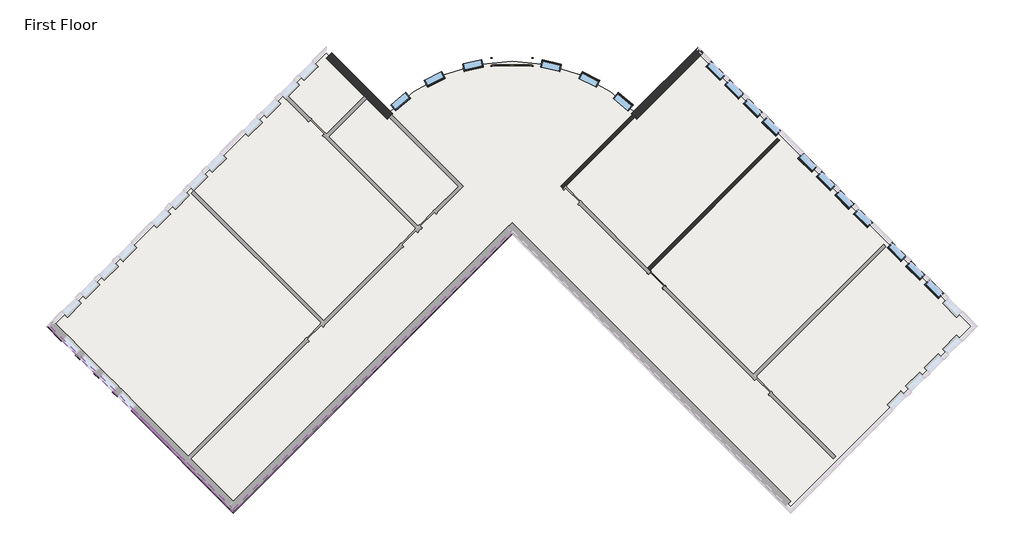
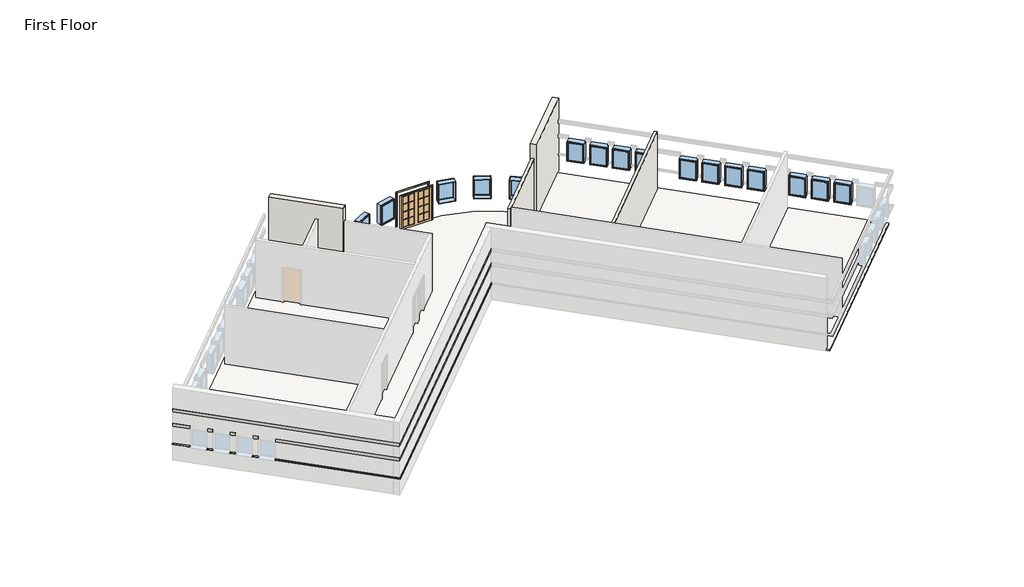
# One storey, part 2 of 3: 17 windows, 6 proxies, 4 walls, 2 doors, 1 slab.
"""IFC4 building model written with IfcOpenShell, lengths in millimetres."""

from ifc_helpers import new_model, si_unit, point, frame, frame_2d, origin, origin_with_axes, place, context, project, spatial, polyline, circle_curve, trimmed, segment, composite_curve, outline, extrude, faceted_brep, transform, mapped, element, save
from ifc_brep_helpers import plane_surface, cylinder_surface, revolved_surface, advanced_brep
from components import door_0a477ef8, door_5f5b55da, window_15c49d37, window_0e2fc6ce

model = new_model("IFC4")

# Units and contexts
model_context = context("Model", 3, world=origin())
ifc_project = project(units=[si_unit("LENGTHUNIT", "METRE", prefix="MILLI")], contexts=[model_context])

# Site, building, storey
site = spatial("IfcSite", under=ifc_project)
building = spatial("IfcBuilding", under=site)
storey = spatial("IfcBuildingStorey", under=building, Name="First Floor", Elevation=0.0)

# Proxies
placement = place(None, origin())
element("IfcBuildingElementProxy", 1, Name="Wall Sweeps", at=placement, inside=storey, context=model_context, shape_type="Brep", body=[
    faceted_brep([(-2868.0283643, 3082.7471418, 1085.85), (-2868.0283643, 2952.533428, 1085.85), (-2868.0283643, 2903.1420194, 1041.4), (-2868.0283643, 2903.1420194, 1016.0), (-2868.0283643, 3082.7471418, 1016.0), (-15799.5971786, -9848.8216726, 1085.85), (-15799.5971786, -9848.8216726, 1016.0), (-15799.5971786, -10028.426795, 1016.0), (-15799.5971786, -10028.426795, 1041.4), (-15799.5971786, -9979.0353863, 1085.85), (-2933.1352212, 3017.6402849, 1085.85), (-2933.1352212, 3017.6402849, 1016.0)], [[[0, 1, 2, 3, 4]], [[5, 6, 7, 8, 9]], [[1, 0, 10, 5, 9]], [[2, 1, 9, 8]], [[3, 2, 8, 7]], [[4, 3, 7, 6, 11]], [[0, 4, 11, 6, 5, 10]]]),
])
element("IfcBuildingElementProxy", 2, Name="Wall Sweeps", at=placement, inside=storey, context=model_context, shape_type="Brep", body=[
    faceted_brep([(-2868.0283643, 2952.533428, 2336.8), (-2868.0283643, 2952.533428, 2133.6), (-2868.0283643, 3082.7471418, 2133.6), (-2868.0283643, 3082.7471418, 2336.8), (-15799.5971786, -9979.0353863, 2336.8), (-15799.5971786, -9848.8216726, 2336.8), (-15799.5971786, -9848.8216726, 2133.6), (-15799.5971786, -9979.0353863, 2133.6), (-2933.1352212, 3017.6402849, 2133.6), (-2933.1352212, 3017.6402849, 2336.8)], [[[0, 1, 2, 3]], [[4, 5, 6, 7]], [[1, 0, 4, 7]], [[2, 1, 7, 6, 8]], [[3, 2, 8, 6, 5, 9]], [[0, 3, 9, 5, 4]]]),
])
element("IfcBuildingElementProxy", 3, Name="Wall Sweeps", at=placement, inside=storey, context=model_context, shape_type="Brep", body=[
    faceted_brep([(-2868.0283643, 2952.533428, 3251.2), (-2868.0283643, 2952.533428, 3048.0), (-2868.0283643, 3082.7471418, 3048.0), (-2868.0283643, 3082.7471418, 3251.2), (-15799.5971786, -9979.0353863, 3251.2), (-15799.5971786, -9848.8216726, 3251.2), (-15799.5971786, -9848.8216726, 3048.0), (-15799.5971786, -9979.0353863, 3048.0), (-2933.1352212, 3017.6402849, 3048.0), (-2933.1352212, 3017.6402849, 3251.2)], [[[0, 1, 2, 3]], [[4, 5, 6, 7]], [[1, 0, 4, 7]], [[2, 1, 7, 6, 8]], [[3, 2, 8, 6, 5, 9]], [[0, 3, 9, 5, 4]]]),
])
element("IfcBuildingElementProxy", 4, Name="Wall Sweeps", at=placement, inside=storey, context=model_context, shape_type="Brep", body=[
    faceted_brep([(-15799.5971786, -9848.8216726, 1085.85), (-15799.5971786, -9979.0353863, 1085.85), (-15799.5971786, -10028.426795, 1041.4), (-15799.5971786, -10028.426795, 1016.0), (-15799.5971786, -9848.8216726, 1016.0), (-20459.2275735, -5189.1912777, 1085.85), (-20459.2275735, -5189.1912777, 1016.0), (-20524.3344303, -5254.2981346, 1016.0), (-20549.0301347, -5278.993839, 1016.0), (-20549.0301347, -5278.993839, 1041.4), (-20524.3344303, -5254.2981346, 1085.85), (-15983.6924291, -9664.7264221, 1085.85), (-15983.6924291, -9664.7264221, 1016.0)], [[[0, 1, 2, 3, 4]], [[5, 6, 7, 8, 9, 10]], [[1, 0, 11, 5, 10]], [[2, 1, 10, 9]], [[3, 2, 9, 8]], [[4, 3, 8, 7, 6, 12]], [[0, 4, 12, 6, 5, 11]]]),
    faceted_brep([(-21105.8060142, -4542.612837, 1085.85), (-21170.9128711, -4607.7196939, 1085.85), (-21195.6085754, -4632.4153982, 1041.4), (-21195.6085754, -4632.4153982, 1016.0), (-21170.9128711, -4607.7196939, 1016.0), (-21105.8060142, -4542.612837, 1016.0), (-21321.3321611, -4327.0866901, 1085.85), (-21321.3321611, -4327.0866901, 1016.0), (-21386.439018, -4392.193547, 1016.0), (-21411.1347223, -4416.8892513, 1016.0), (-21411.1347223, -4416.8892513, 1041.4), (-21386.439018, -4392.193547, 1085.85)], [[[0, 1, 2, 3, 4, 5]], [[6, 7, 8, 9, 10, 11]], [[1, 0, 6, 11]], [[2, 1, 11, 10]], [[3, 2, 10, 9]], [[5, 4, 3, 9, 8, 7]], [[0, 5, 7, 6]]]),
    faceted_brep([(-21967.9106018, -3680.5082494, 1085.85), (-22033.0174587, -3745.6151063, 1085.85), (-22057.713163, -3770.3108106, 1041.4), (-22057.713163, -3770.3108106, 1016.0), (-22033.0174587, -3745.6151063, 1016.0), (-21967.9106018, -3680.5082494, 1016.0), (-22183.4367487, -3464.9821025, 1085.85), (-22183.4367487, -3464.9821025, 1016.0), (-22248.5436056, -3530.0889594, 1016.0), (-22273.2393099, -3554.7846637, 1016.0), (-22273.2393099, -3554.7846637, 1041.4), (-22248.5436056, -3530.0889594, 1085.85)], [[[0, 1, 2, 3, 4, 5]], [[6, 7, 8, 9, 10, 11]], [[1, 0, 6, 11]], [[2, 1, 11, 10]], [[3, 2, 10, 9]], [[5, 4, 3, 9, 8, 7]], [[0, 5, 7, 6]]]),
    faceted_brep([(-22830.0151894, -2818.4036618, 1085.85), (-22895.1220463, -2883.5105187, 1085.85), (-22919.8177506, -2908.206223, 1041.4), (-22919.8177506, -2908.206223, 1016.0), (-22895.1220463, -2883.5105187, 1016.0), (-22830.0151894, -2818.4036618, 1016.0), (-23045.5413363, -2602.8775149, 1085.85), (-23045.5413363, -2602.8775149, 1016.0), (-23110.6481932, -2667.9843718, 1016.0), (-23135.3438975, -2692.6800761, 1016.0), (-23135.3438975, -2692.6800761, 1041.4), (-23110.6481932, -2667.9843718, 1085.85)], [[[0, 1, 2, 3, 4, 5]], [[6, 7, 8, 9, 10, 11]], [[1, 0, 6, 11]], [[2, 1, 11, 10]], [[3, 2, 10, 9]], [[5, 4, 3, 9, 8, 7]], [[0, 5, 7, 6]]]),
    faceted_brep([(-23692.119777, -1956.2990742, 1085.85), (-23757.2266339, -2021.405931, 1085.85), (-23781.9223383, -2046.1016354, 1041.4), (-23781.9223383, -2046.1016354, 1016.0), (-23757.2266339, -2021.405931, 1016.0), (-23692.119777, -1956.2990742, 1016.0), (-24290.4293411, -1357.9895101, 1085.85), (-24290.4293411, -1357.9895101, 1016.0), (-24470.0344635, -1357.9895101, 1016.0), (-24470.0344635, -1357.9895101, 1041.4), (-24420.6430549, -1357.9895101, 1085.85)], [[[0, 1, 2, 3, 4, 5]], [[6, 7, 8, 9, 10]], [[1, 0, 6, 10]], [[2, 1, 10, 9]], [[3, 2, 9, 8]], [[5, 4, 3, 8, 7]], [[0, 5, 7, 6]]]),
])
element("IfcBuildingElementProxy", 5, Name="Wall Sweeps", at=placement, inside=storey, context=model_context, shape_type="Brep", body=[
    faceted_brep([(-15799.5971786, -9979.0353863, 2336.8), (-15799.5971786, -9979.0353863, 2133.6), (-15799.5971786, -9848.8216726, 2133.6), (-15799.5971786, -9848.8216726, 2336.8), (-20524.3344303, -5254.2981346, 2336.8), (-20459.2275735, -5189.1912777, 2336.8), (-20459.2275735, -5189.1912777, 2133.6), (-20524.3344303, -5254.2981346, 2133.6), (-16048.799286, -9729.833279, 2336.8), (-16048.799286, -9729.833279, 2133.6), (-15983.6924291, -9664.7264221, 2133.6), (-15983.6924291, -9664.7264221, 2336.8)], [[[0, 1, 2, 3]], [[4, 5, 6, 7]], [[1, 0, 8, 4, 7, 9]], [[2, 1, 9, 7, 6, 10]], [[3, 2, 10, 6, 5, 11]], [[0, 3, 11, 5, 4, 8]]]),
    faceted_brep([(-21170.9128711, -4607.7196939, 2336.8), (-21170.9128711, -4607.7196939, 2133.6), (-21105.8060142, -4542.612837, 2133.6), (-21105.8060142, -4542.612837, 2336.8), (-21386.439018, -4392.193547, 2336.8), (-21321.3321611, -4327.0866901, 2336.8), (-21321.3321611, -4327.0866901, 2133.6), (-21386.439018, -4392.193547, 2133.6)], [[[0, 1, 2, 3]], [[4, 5, 6, 7]], [[1, 0, 4, 7]], [[2, 1, 7, 6]], [[3, 2, 6, 5]], [[0, 3, 5, 4]]]),
    faceted_brep([(-22033.0174587, -3745.6151063, 2336.8), (-22033.0174587, -3745.6151063, 2133.6), (-21967.9106018, -3680.5082494, 2133.6), (-21967.9106018, -3680.5082494, 2336.8), (-22248.5436056, -3530.0889594, 2336.8), (-22183.4367487, -3464.9821025, 2336.8), (-22183.4367487, -3464.9821025, 2133.6), (-22248.5436056, -3530.0889594, 2133.6)], [[[0, 1, 2, 3]], [[4, 5, 6, 7]], [[1, 0, 4, 7]], [[2, 1, 7, 6]], [[3, 2, 6, 5]], [[0, 3, 5, 4]]]),
    faceted_brep([(-22895.1220463, -2883.5105187, 2336.8), (-22895.1220463, -2883.5105187, 2133.6), (-22830.0151894, -2818.4036618, 2133.6), (-22830.0151894, -2818.4036618, 2336.8), (-23110.6481932, -2667.9843718, 2336.8), (-23045.5413363, -2602.8775149, 2336.8), (-23045.5413363, -2602.8775149, 2133.6), (-23110.6481932, -2667.9843718, 2133.6)], [[[0, 1, 2, 3]], [[4, 5, 6, 7]], [[1, 0, 4, 7]], [[2, 1, 7, 6]], [[3, 2, 6, 5]], [[0, 3, 5, 4]]]),
    faceted_brep([(-23757.2266339, -2021.405931, 2336.8), (-23757.2266339, -2021.405931, 2133.6), (-23692.119777, -1956.2990742, 2133.6), (-23692.119777, -1956.2990742, 2336.8), (-24420.6430549, -1357.9895101, 2336.8), (-24290.4293411, -1357.9895101, 2336.8), (-24290.4293411, -1357.9895101, 2133.6), (-24420.6430549, -1357.9895101, 2133.6)], [[[0, 1, 2, 3]], [[4, 5, 6, 7]], [[1, 0, 4, 7]], [[2, 1, 7, 6]], [[3, 2, 6, 5]], [[0, 3, 5, 4]]]),
])
element("IfcBuildingElementProxy", 6, Name="Wall Sweeps", at=placement, inside=storey, context=model_context, shape_type="Brep", body=[
    faceted_brep([(-15799.5971786, -9979.0353863, 3251.2), (-15799.5971786, -9979.0353863, 3048.0), (-15799.5971786, -9848.8216726, 3048.0), (-15799.5971786, -9848.8216726, 3251.2), (-24420.6430549, -1357.9895101, 3251.2), (-24290.4293411, -1357.9895101, 3251.2), (-24290.4293411, -1357.9895101, 3048.0), (-24420.6430549, -1357.9895101, 3048.0), (-16048.799286, -9729.833279, 3251.2), (-16048.799286, -9729.833279, 3048.0), (-15983.6924291, -9664.7264221, 3048.0), (-15983.6924291, -9664.7264221, 3251.2)], [[[0, 1, 2, 3]], [[4, 5, 6, 7]], [[1, 0, 8, 4, 7, 9]], [[2, 1, 9, 7, 6, 10]], [[3, 2, 10, 6, 5, 11]], [[0, 3, 11, 5, 4, 8]]]),
])

# Doors
door_shape = door_0a477ef8(model_context)
element("IfcDoor", 7, ObjectType="Double-Glass 2 : 72\" x 84\"", at=placement, inside=storey, context=model_context, shape_type="MappedRepresentation", body=[
    mapped(door_shape, transform((-2868.7603243, 10905.5717204, 0.0), x_axis=(-0.9999999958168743, -9.146721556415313e-05, 0.0), y_axis=(9.146721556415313e-05, -0.9999999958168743, 0.0), z_axis=(0.0, 0.0, 1.0))),
])
door_2_shape = door_5f5b55da(model_context)
element("IfcDoor", 8, ObjectType="Single-Glass 1 : 36\" x 84\"", at=placement, inside=storey, context=model_context, shape_type="MappedRepresentation", body=[
    mapped(door_2_shape, transform((3846.9581502, 797.271959, 0.0), x_axis=(-0.7071067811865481, 0.7071067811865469, 0.0), y_axis=(-0.7071067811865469, -0.7071067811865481, 0.0), z_axis=(0.0, 0.0, 1.0))),
])

# Slab
element("IfcSlab", 9, ObjectType="4\" Concrete Slab", at=placement, inside=storey, context=model_context, shape_type="SweptSolid", body=[
    extrude(outline(composite_curve([segment(polyline([(-11489.0742405, 11308.6617487), (-8661.5174871, 8481.1049952)]), True, "CONTINUOUS"), segment(trimmed(circle_curve(frame_2d((-2868.0283643, 2903.1420194)), 8042.275), [point((-8661.5174871, 8481.1049952))], [point((2925.4607585, 8481.1049952))], False, "CARTESIAN"), True, "CONTINUOUS"), segment(polyline([(2925.4607585, 8481.1049952), (5753.0175119, 11308.6617487), (18419.6687707, -1357.9895101), (10063.54045, -9714.1178307), (-2868.0283643, 3217.4509836), (-15799.5971786, -9714.1178307), (-24155.7254993, -1357.9895101), (-11489.0742405, 11308.6617487)]), True, "CONTINUOUS")], self_intersect=False)), frame((0.0, 0.0, -101.6), z_axis=(0.0, 0.0, 1.0), x_axis=(1.0, 0.0, 0.0)), (0.0, 0.0, 1.0), 101.6),
])

# Walls
element("IfcWall", 10, ObjectType="Exterior - Split Face and CMU on Mtl. Stud", at=placement, inside=storey, context=model_context, shape_type="AdvancedBrep", body=[
    advanced_brep(
    [(2921.9555443, 8244.1131219, 0.0), (5753.0175119, 11075.1750895, 0.0), (6002.2196193, 11324.3771969, 0.0), (6002.2196193, 11324.3771969, 1016.0), (5937.1127624, 11259.27034, 1016.0), (5937.1127624, 11259.27034, 1085.85), (6002.2196193, 11324.3771969, 1085.85), (6002.2196193, 11324.3771969, 2133.6), (5937.1127624, 11259.27034, 2133.6), (5937.1127624, 11259.27034, 2336.8), (6002.2196193, 11324.3771969, 2336.8), (6002.2196193, 11324.3771969, 3048.0), (5937.1127624, 11259.27034, 3048.0), (5937.1127624, 11259.27034, 3251.2), (6002.2196193, 11324.3771969, 3251.2), (6002.2196193, 11324.3771969, 4572.0), (5753.0175119, 11075.1750895, 4572.0), (2921.9555443, 8244.1131219, 4572.0), (2677.2250436, 8497.7868359, 4572.0), (2926.4294954, 8746.9912878, 4572.0), (5753.0175119, 11573.5793042, 4572.0), (5753.0175119, 11573.5793042, 3251.2), (2926.4294954, 8746.9912878, 3251.2), (2861.3220456, 8681.8838379, 3251.2), (2861.3220456, 8681.8838379, 3048.0), (2926.4294954, 8746.9912878, 3048.0), (5753.0175119, 11573.5793042, 3048.0), (5753.0175119, 11573.5793042, 2336.8), (2926.4294954, 8746.9912878, 2336.8), (2861.3220456, 8681.8838379, 2336.8), (2861.3220456, 8681.8838379, 2133.6), (2926.4294954, 8746.9912878, 2133.6), (5753.0175119, 11573.5793042, 2133.6), (5753.0175119, 11573.5793042, 1085.85), (2926.4294954, 8746.9912878, 1085.85), (2861.3220456, 8681.8838379, 1085.85), (2861.3220456, 8681.8838379, 1016.0), (2926.4294954, 8746.9912878, 1016.0), (5753.0175119, 11573.5793042, 1016.0), (5753.0175119, 11573.5793042, 0.0), (2926.4294954, 8746.9912878, 0.0), (2677.2250436, 8497.7868359, 0.0), (5818.1243688, 11508.4724474, 0.0), (2712.9544089, 8462.1452813, 0.0), (2742.2400511, 8432.5881297, 0.0), (2821.6568654, 8350.8358404, 0.0), (5753.0175119, 11443.3655905, 1085.85), (2926.3399919, 8616.6880705, 1085.85), (2926.3399919, 8616.6880705, 1016.0), (5753.0175119, 11443.3655905, 1016.0), (2926.3399919, 8616.6880705, 2133.6), (5753.0175119, 11443.3655905, 2133.6), (2926.3399919, 8616.6880705, 2336.8), (5753.0175119, 11443.3655905, 2336.8), (2926.3399919, 8616.6880705, 3048.0), (5753.0175119, 11443.3655905, 3048.0), (2926.3399919, 8616.6880705, 3251.2), (5753.0175119, 11443.3655905, 3251.2)],
    [
        (0, 1),
        (1, 2),
        (2, 3),
        (3, 4),
        (4, 5),
        (5, 6),
        (6, 7),
        (7, 8),
        (8, 9),
        (9, 10),
        (10, 11),
        (11, 12),
        (12, 13),
        (13, 14),
        (14, 15),
        (15, 16),
        (16, 17),
        (17, 0),
        (18, 19),
        (19, 20),
        (20, 21),
        (21, 22),
        (22, 23),
        (23, 24),
        (24, 25),
        (25, 26),
        (26, 27),
        (27, 28),
        (28, 29),
        (29, 30),
        (30, 31),
        (31, 32),
        (32, 33),
        (33, 34),
        (34, 35),
        (35, 36),
        (36, 37),
        (37, 38),
        (38, 39),
        (39, 40),
        (40, 41),
        (41, 18),
        (15, 20),
        (18, 17, circle_curve(frame((-2868.0283643, 2903.1420194, 4572.0), z_axis=(0.0, 0.0, -1.0), x_axis=(1.0, 0.0, 0.0)), 7877.175)),
        (14, 21),
        (2, 42),
        (42, 39),
        (38, 3),
        (6, 33),
        (32, 7),
        (10, 27),
        (26, 11),
        (41, 43, circle_curve(frame((-2868.0283643, 2903.1420194, 0.0), z_axis=(0.0, 0.0, -1.0), x_axis=(1.0, 0.0, 0.0)), 7877.175)),
        (43, 44, circle_curve(frame((-2868.0283643, 2903.1420194, 0.0), z_axis=(0.0, 0.0, -1.0), x_axis=(1.0, 0.0, 0.0)), 7877.175)),
        (44, 45, circle_curve(frame((-2868.0283643, 2903.1420194, 0.0), z_axis=(0.0, 0.0, -1.0), x_axis=(1.0, 0.0, 0.0)), 7877.175)),
        (45, 0, circle_curve(frame((-2868.0283643, 2903.1420194, 0.0), z_axis=(0.0, 0.0, -1.0), x_axis=(1.0, 0.0, 0.0)), 7877.175)),
        (44, 42),
        (46, 47),
        (47, 35, circle_curve(frame((-2868.0283643, 2903.1420194, 1085.85), z_axis=(0.0, 0.0, 1.0), x_axis=(0.6844196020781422, 0.7290883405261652, 0.0)), 8137.525)),
        (5, 46),
        (48, 49),
        (49, 4),
        (36, 48, circle_curve(frame((-2868.0283643, 2903.1420194, 1016.0), z_axis=(0.0, 0.0, -1.0), x_axis=(0.6844196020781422, 0.7290883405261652, 0.0)), 8137.525)),
        (47, 48),
        (46, 49),
        (50, 51),
        (51, 8),
        (30, 50, circle_curve(frame((-2868.0283643, 2903.1420194, 2133.6), z_axis=(0.0, 0.0, -1.0), x_axis=(0.6844196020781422, 0.7290883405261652, 0.0)), 8137.525)),
        (52, 50),
        (29, 52, circle_curve(frame((-2868.0283643, 2903.1420194, 2336.8), z_axis=(0.0, 0.0, -1.0), x_axis=(0.6844196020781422, 0.7290883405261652, 0.0)), 8137.525)),
        (53, 52),
        (9, 53),
        (53, 51),
        (54, 55),
        (55, 12),
        (24, 54, circle_curve(frame((-2868.0283643, 2903.1420194, 3048.0), z_axis=(0.0, 0.0, -1.0), x_axis=(-0.7040995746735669, 0.7101012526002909, 0.0)), 8137.525)),
        (56, 54),
        (23, 56, circle_curve(frame((-2868.0283643, 2903.1420194, 3251.2), z_axis=(0.0, 0.0, -1.0), x_axis=(-0.7040995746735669, 0.7101012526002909, 0.0)), 8137.525)),
        (57, 56),
        (13, 57),
        (57, 55),
    ],
    [
        plane_surface(frame((2984.8535626, 8307.0111402, 0.0), z_axis=(0.707106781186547, -0.7071067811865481, 0.0), x_axis=(0.7071067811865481, 0.707106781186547, 0.0))),
        plane_surface(frame((2735.6514552, 8556.2132476, 0.0), z_axis=(-0.707106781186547, 0.7071067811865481, 0.0), x_axis=(-0.7071067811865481, -0.707106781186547, 0.0))),
        plane_surface(frame((5877.6185656, 11199.7761432, 4572.0), z_axis=(0.0, 0.0, 1.0), x_axis=(-0.707106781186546, 0.7071067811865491, 0.0))),
        plane_surface(frame((5753.0175119, 11573.5793042, 0.0), z_axis=(0.7071067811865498, 0.7071067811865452, 0.0), x_axis=(-0.7071067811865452, 0.7071067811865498, 0.0))),
        revolved_surface(polyline([(5009.146635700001, 2903.1420194, 0.0), (5009.146635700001, 2903.1420194, 4572.0)]), (-2868.0283643, 2903.1420194, 0.0), (0.0, 0.0, -1.0)),
        plane_surface(frame((3050.2065213, 8372.3640989, 0.0), z_axis=(0.0, 0.0, -1.0000000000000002), x_axis=(-0.7071067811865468, 0.7071067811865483, 0.0))),
        plane_surface(frame((0.0, 0.0, 0.0), z_axis=(0.0, 0.0, -1.0), x_axis=(1.0, 0.0, 0.0))),
        plane_surface(frame((-2868.0283643, 2903.1420194, 1085.85), z_axis=(0.0, 0.0, -1.0), x_axis=(0.6844196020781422, 0.7290883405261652, 0.0))),
        plane_surface(frame((-2868.0283643, 2903.1420194, 1016.0), z_axis=(0.0, 0.0, 1.0), x_axis=(0.6844196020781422, 0.7290883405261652, 0.0))),
        cylinder_surface(frame((-2868.0283643, 2903.1420194, 1016.0), z_axis=(0.0, 0.0, -1.0), x_axis=(0.6844196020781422, 0.7290883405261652, 0.0)), 8137.525),
        plane_surface(frame((2926.3399919, 8616.6880705, 1016.0), z_axis=(-0.7071067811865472, 0.7071067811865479, 0.0), x_axis=(0.7071067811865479, 0.7071067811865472, 0.0))),
        plane_surface(frame((5753.0175119, 11443.3655905, 1016.0), z_axis=(0.7071067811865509, 0.7071067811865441, 0.0), x_axis=(0.7071067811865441, -0.7071067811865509, 0.0))),
        plane_surface(frame((-2868.0283643, 2903.1420194, 2133.6), z_axis=(0.0, 0.0, 1.0), x_axis=(0.6844196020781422, 0.7290883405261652, 0.0))),
        cylinder_surface(frame((-2868.0283643, 2903.1420194, 2133.6), z_axis=(0.0, 0.0, -1.0), x_axis=(0.6844196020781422, 0.7290883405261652, 0.0)), 8137.525),
        plane_surface(frame((-2868.0283643, 2903.1420194, 2336.8), z_axis=(0.0, 0.0, -1.0), x_axis=(0.6844196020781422, 0.7290883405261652, 0.0))),
        plane_surface(frame((2926.3399919, 8616.6880705, 2133.6), z_axis=(-0.7071067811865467, 0.7071067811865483, 0.0), x_axis=(0.7071067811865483, 0.7071067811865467, 0.0))),
        plane_surface(frame((5753.0175119, 11443.3655905, 2133.6), z_axis=(0.7071067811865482, 0.7071067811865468, 0.0), x_axis=(0.7071067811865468, -0.7071067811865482, 0.0))),
        plane_surface(frame((-2868.0283643, 2903.1420194, 3048.0), z_axis=(0.0, 0.0, 1.0), x_axis=(-0.7040995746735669, 0.7101012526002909, 0.0))),
        cylinder_surface(frame((-2868.0283643, 2903.1420194, 3048.0), z_axis=(0.0, 0.0, -1.0), x_axis=(-0.7040995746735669, 0.7101012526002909, 0.0)), 8137.525),
        plane_surface(frame((-2868.0283643, 2903.1420194, 3251.2), z_axis=(0.0, 0.0, -1.0), x_axis=(-0.7040995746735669, 0.7101012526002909, 0.0))),
        plane_surface(frame((2926.3399919, 8616.6880705, 3048.0), z_axis=(-0.7071067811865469, 0.7071067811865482, 0.0), x_axis=(0.7071067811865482, 0.7071067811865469, 0.0))),
        plane_surface(frame((5753.0175119, 11443.3655905, 3048.0), z_axis=(0.7071067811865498, 0.7071067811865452, 0.0), x_axis=(0.7071067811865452, -0.7071067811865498, 0.0))),
    ],
    [
        (0, [[1, 2, 3, 4, 5, 6, 7, 8, 9, 10, 11, 12, 13, 14, 15, 16, 17, 18]]),
        (1, [[19, 20, 21, 22, 23, 24, 25, 26, 27, 28, 29, 30, 31, 32, 33, 34, 35, 36, 37, 38, 39, 40, 41, 42]]),
        (2, [[-17, -16, 43, -20, -19, 44]]),
        (3, [[-43, -15, 45, -21]]),
        (3, [[46, 47, -39, 48, -3]]),
        (3, [[49, -33, 50, -7]]),
        (3, [[51, -27, 52, -11]]),
        (4, [[-44, -42, 53, 54, 55, 56, -18]]),
        (5, [[-2, -1, -56, -55, 57, -46]]),
        (6, [[-54, -53, -41, -40, -47, -57]]),
        (7, [[58, 59, -35, -34, -49, -6, 60]]),
        (8, [[61, 62, -4, -48, -38, -37, 63]]),
        (9, [[64, -63, -36, -59]]),
        (10, [[-58, 65, -61, -64]]),
        (11, [[-65, -60, -5, -62]]),
        (12, [[66, 67, -8, -50, -32, -31, 68]]),
        (13, [[69, -68, -30, 70]]),
        (14, [[71, -70, -29, -28, -51, -10, 72]]),
        (15, [[-66, -69, -71, 73]]),
        (16, [[-73, -72, -9, -67]]),
        (17, [[74, 75, -12, -52, -26, -25, 76]]),
        (18, [[77, -76, -24, 78]]),
        (19, [[79, -78, -23, -22, -45, -14, 80]]),
        (20, [[-74, -77, -79, 81]]),
        (21, [[-81, -80, -13, -75]]),
    ],
),
])
element("IfcWall", 11, ObjectType="Exterior - Split Face and CMU on Mtl. Stud", at=placement, inside=storey, context=model_context, shape_type="AdvancedBrep", body=[
    advanced_brep(
    [(-11489.0742405, 11075.1750895, 0.0), (-9728.9440408, 9315.0448898, 0.0), (-9618.9359033, 9205.0367523, 0.0), (-8658.0122729, 8244.1131219, 0.0), (-8658.0122729, 8244.1131219, 4572.0), (-11489.0742405, 11075.1750895, 4572.0), (-11239.8721332, 11324.3771969, 4572.0), (-8662.486224, 8746.9912878, 4572.0), (-8413.2817722, 8497.7868359, 4572.0), (-8413.2817722, 8497.7868359, 0.0), (-8662.486224, 8746.9912878, 0.0), (-11239.8721332, 11324.3771969, 0.0), (-11239.8721332, 11324.3771969, 1016.0), (-8662.486224, 8746.9912878, 1016.0), (-8597.3787742, 8681.8838379, 1016.0), (-8597.3787742, 8681.8838379, 1085.85), (-8662.486224, 8746.9912878, 1085.85), (-11239.8721332, 11324.3771969, 1085.85), (-11239.8721332, 11324.3771969, 2133.6), (-8662.486224, 8746.9912878, 2133.6), (-8597.3787742, 8681.8838379, 2133.6), (-8597.3787742, 8681.8838379, 2336.8), (-8662.486224, 8746.9912878, 2336.8), (-11239.8721332, 11324.3771969, 2336.8), (-11239.8721332, 11324.3771969, 3048.0), (-8662.486224, 8746.9912878, 3048.0), (-8597.3787742, 8681.8838379, 3048.0), (-8597.3787742, 8681.8838379, 3251.2), (-8662.486224, 8746.9912878, 3251.2), (-11239.8721332, 11324.3771969, 3251.2), (-8478.2967797, 8432.5881297, 0.0), (-11304.9789901, 11259.27034, 3251.2), (-11304.9789901, 11259.27034, 3048.0), (-11304.9789901, 11259.27034, 2336.8), (-11304.9789901, 11259.27034, 2133.6), (-11304.9789901, 11259.27034, 1085.85), (-11304.9789901, 11259.27034, 1016.0), (-11304.9789901, 11259.27034, 0.0), (-8662.3967205, 8616.6880705, 1085.85), (-8662.3967205, 8616.6880705, 1016.0), (-8662.3967205, 8616.6880705, 2336.8), (-8662.3967205, 8616.6880705, 2133.6), (-8662.3967205, 8616.6880705, 3251.2), (-8662.3967205, 8616.6880705, 3048.0)],
    [
        (0, 1),
        (1, 2),
        (2, 3),
        (3, 4),
        (4, 5),
        (5, 0),
        (6, 7),
        (7, 8),
        (8, 9),
        (9, 10),
        (10, 11),
        (11, 12),
        (12, 13),
        (13, 14),
        (14, 15),
        (15, 16),
        (16, 17),
        (17, 18),
        (18, 19),
        (19, 20),
        (20, 21),
        (21, 22),
        (22, 23),
        (23, 24),
        (24, 25),
        (25, 26),
        (26, 27),
        (27, 28),
        (28, 29),
        (29, 6),
        (4, 8, circle_curve(frame((-2868.0283643, 2903.1420194, 4572.0), z_axis=(0.0, 0.0, -1.0), x_axis=(1.0, 0.0, 0.0)), 7877.175)),
        (6, 5),
        (3, 30, circle_curve(frame((-2868.0283643, 2903.1420194, 0.0), z_axis=(0.0, 0.0, -1.0), x_axis=(1.0, 0.0, 0.0)), 7877.175)),
        (30, 9, circle_curve(frame((-2868.0283643, 2903.1420194, 0.0), z_axis=(0.0, 0.0, -1.0), x_axis=(1.0, 0.0, 0.0)), 7877.175)),
        (29, 31),
        (31, 32),
        (32, 24),
        (23, 33),
        (33, 34),
        (34, 18),
        (17, 35),
        (35, 36),
        (36, 12),
        (11, 37),
        (37, 0),
        (37, 30),
        (38, 39),
        (39, 36),
        (35, 38),
        (15, 38, circle_curve(frame((-2868.0283643, 2903.1420194, 1085.85), z_axis=(0.0, 0.0, 1.0), x_axis=(-0.7040995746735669, 0.7101012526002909, 0.0)), 8137.525)),
        (39, 14, circle_curve(frame((-2868.0283643, 2903.1420194, 1016.0), z_axis=(0.0, 0.0, -1.0), x_axis=(-0.7040995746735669, 0.7101012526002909, 0.0)), 8137.525)),
        (40, 41),
        (41, 34),
        (33, 40),
        (41, 20, circle_curve(frame((-2868.0283643, 2903.1420194, 2133.6), z_axis=(0.0, 0.0, -1.0), x_axis=(-0.7120553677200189, 0.7021233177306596, 0.0)), 8137.525)),
        (40, 21, circle_curve(frame((-2868.0283643, 2903.1420194, 2336.8), z_axis=(0.0, 0.0, -1.0), x_axis=(-0.7120553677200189, 0.7021233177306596, 0.0)), 8137.525)),
        (42, 43),
        (43, 32),
        (31, 42),
        (43, 26, circle_curve(frame((-2868.0283643, 2903.1420194, 3048.0), z_axis=(0.0, 0.0, -1.0), x_axis=(-0.7120553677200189, 0.7021233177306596, 0.0)), 8137.525)),
        (42, 27, circle_curve(frame((-2868.0283643, 2903.1420194, 3251.2), z_axis=(0.0, 0.0, -1.0), x_axis=(-0.7120553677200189, 0.7021233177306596, 0.0)), 8137.525)),
    ],
    [
        plane_surface(frame((-11738.2763479, 11324.3771969, 0.0), z_axis=(-0.7071067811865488, -0.7071067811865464, 0.0), x_axis=(0.7071067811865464, -0.7071067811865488, 0.0))),
        plane_surface(frame((-11489.0742405, 11573.5793042, 0.0), z_axis=(0.7071067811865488, 0.7071067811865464, 0.0), x_axis=(-0.7071067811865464, 0.7071067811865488, 0.0))),
        plane_surface(frame((-8786.2632499, 8372.3640989, 4572.0), z_axis=(0.0, 0.0, 1.0), x_axis=(0.7071067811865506, 0.7071067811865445, 0.0))),
        revolved_surface(polyline([(5009.146635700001, 2903.1420194, 0.0), (5009.146635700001, 2903.1420194, 4572.0)]), (-2868.0283643, 2903.1420194, 0.0), (0.0, 0.0, -1.0)),
        plane_surface(frame((-24171.4409475, -1607.1916175, 0.0), z_axis=(-0.7071067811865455, 0.7071067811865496, 0.0), x_axis=(0.7071067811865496, 0.7071067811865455, 0.0))),
        plane_surface(frame((-11613.6752942, 11199.7761432, 0.0), z_axis=(0.0, 0.0, -1.0000000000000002), x_axis=(0.7071067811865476, 0.7071067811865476, 0.0))),
        plane_surface(frame((0.0, 0.0, 0.0), z_axis=(0.0, 0.0, -1.0), x_axis=(1.0, 0.0, 0.0))),
        plane_surface(frame((-11489.0742405, 11443.3655905, 1016.0), z_axis=(0.7071067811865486, 0.7071067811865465, 0.0), x_axis=(0.7071067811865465, -0.7071067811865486, 0.0))),
        plane_surface(frame((-2868.0283643, 2903.1420194, 1085.85), z_axis=(0.0, 0.0, -1.0), x_axis=(-0.7040995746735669, 0.7101012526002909, 0.0))),
        plane_surface(frame((-2868.0283643, 2903.1420194, 1016.0), z_axis=(0.0, 0.0, 1.0), x_axis=(-0.7040995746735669, 0.7101012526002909, 0.0))),
        cylinder_surface(frame((-2868.0283643, 2903.1420194, 1016.0), z_axis=(0.0, 0.0, -1.0), x_axis=(-0.7040995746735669, 0.7101012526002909, 0.0)), 8137.525),
        plane_surface(frame((-11489.0742405, 11443.3655905, 2133.6), z_axis=(0.7071067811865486, 0.7071067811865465, 0.0), x_axis=(0.7071067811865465, -0.7071067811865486, 0.0))),
        plane_surface(frame((-2868.0283643, 2903.1420194, 2133.6), z_axis=(0.0, 0.0, 1.0), x_axis=(-0.7120553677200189, 0.7021233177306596, 0.0))),
        cylinder_surface(frame((-2868.0283643, 2903.1420194, 2133.6), z_axis=(0.0, 0.0, -1.0), x_axis=(-0.7120553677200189, 0.7021233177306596, 0.0)), 8137.525),
        plane_surface(frame((-2868.0283643, 2903.1420194, 2336.8), z_axis=(0.0, 0.0, -1.0), x_axis=(-0.7120553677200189, 0.7021233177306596, 0.0))),
        plane_surface(frame((-11489.0742405, 11443.3655905, 3048.0), z_axis=(0.7071067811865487, 0.7071067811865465, 0.0), x_axis=(0.7071067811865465, -0.7071067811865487, 0.0))),
        plane_surface(frame((-2868.0283643, 2903.1420194, 3048.0), z_axis=(0.0, 0.0, 1.0), x_axis=(-0.7120553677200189, 0.7021233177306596, 0.0))),
        cylinder_surface(frame((-2868.0283643, 2903.1420194, 3048.0), z_axis=(0.0, 0.0, -1.0), x_axis=(-0.7120553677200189, 0.7021233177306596, 0.0)), 8137.525),
        plane_surface(frame((-2868.0283643, 2903.1420194, 3251.2), z_axis=(0.0, 0.0, -1.0), x_axis=(-0.7120553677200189, 0.7021233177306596, 0.0))),
    ],
    [
        (0, [[1, 2, 3, 4, 5, 6]]),
        (1, [[7, 8, 9, 10, 11, 12, 13, 14, 15, 16, 17, 18, 19, 20, 21, 22, 23, 24, 25, 26, 27, 28, 29, 30]]),
        (2, [[-5, 31, -8, -7, 32]]),
        (3, [[-4, 33, 34, -9, -31]]),
        (4, [[-6, -32, -30, 35, 36, 37, -24, 38, 39, 40, -18, 41, 42, 43, -12, 44, 45]]),
        (5, [[-3, -2, -1, -45, 46, -33]]),
        (6, [[-44, -11, -10, -34, -46]]),
        (7, [[47, 48, -42, 49]]),
        (8, [[50, -49, -41, -17, -16]]),
        (9, [[-48, 51, -14, -13, -43]]),
        (10, [[-47, -50, -15, -51]]),
        (11, [[52, 53, -39, 54]]),
        (12, [[-53, 55, -20, -19, -40]]),
        (13, [[-52, 56, -21, -55]]),
        (14, [[-56, -54, -38, -23, -22]]),
        (15, [[57, 58, -36, 59]]),
        (16, [[-58, 60, -26, -25, -37]]),
        (17, [[-57, 61, -27, -60]]),
        (18, [[-61, -59, -35, -29, -28]]),
    ],
),
])
element("IfcWall", 12, ObjectType="Interior - 6 1/8\" Partition (2-hr)", at=placement, inside=storey, context=model_context, shape_type="AdvancedBrep", body=[
    advanced_brep(
    [(-497.4763129, 5031.6982846, 0.0), (-387.4681754, 5141.7064221, 0.0), (2821.6590066, 8350.8336041, 0.0), (2821.6590066, 8350.8336041, 3657.6), (-387.4681754, 5141.7064221, 3657.6), (-497.4763129, 5031.6982846, 3657.6), (-607.4844504, 5141.7064221, 0.0), (-607.4844504, 5141.7064221, 3657.6), (2712.9544089, 8462.1452813, 3657.6), (2712.9544089, 8462.1452813, 0.0)],
    [
        (0, 1),
        (1, 2),
        (2, 3),
        (3, 4),
        (4, 5),
        (5, 0),
        (6, 7),
        (7, 8),
        (8, 9),
        (9, 6),
        (0, 6),
        (9, 2, circle_curve(frame((-2868.0283643, 2903.1420194, 0.0), z_axis=(0.0, 0.0, -1.0), x_axis=(1.0, 0.0, 0.0)), 7877.175)),
        (3, 8, circle_curve(frame((-2868.0283643, 2903.1420194, 3657.6), z_axis=(0.0, 0.0, 1.0), x_axis=(1.0, 0.0, 0.0)), 7877.175)),
        (7, 5),
    ],
    [
        plane_surface(frame((-442.4722441, 5086.7023533, 0.0), z_axis=(0.7071067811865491, -0.7071067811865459, 0.0), x_axis=(0.7071067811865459, 0.7071067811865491, 0.0))),
        plane_surface(frame((-552.4803816, 5196.7104908, 0.0), z_axis=(-0.7071067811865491, 0.7071067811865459, 0.0), x_axis=(-0.7071067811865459, -0.7071067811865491, 0.0))),
        plane_surface(frame((-442.4722441, 5086.7023533, 0.0), z_axis=(0.0, 0.0, -1.0), x_axis=(-0.707106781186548, 0.7071067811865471, 0.0))),
        plane_surface(frame((2947.192033, 8476.3666305, 3657.6), z_axis=(0.0, 0.0, 1.0000000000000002), x_axis=(-0.7071067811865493, 0.7071067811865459, 0.0))),
        plane_surface(frame((12163.7978503, -7629.5758786, 0.0), z_axis=(-0.7071067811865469, -0.7071067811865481, 0.0), x_axis=(0.7071067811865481, -0.7071067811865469, 0.0))),
        cylinder_surface(frame((-2868.0283643, 2903.1420194, 0.0), z_axis=(0.0, 0.0, -1.0), x_axis=(1.0, 0.0, 0.0)), 7877.175),
    ],
    [
        (0, [[1, 2, 3, 4, 5, 6]]),
        (1, [[7, 8, 9, 10]]),
        (2, [[-2, -1, 11, -10, 12]]),
        (3, [[-5, -4, 13, -8, 14]]),
        (4, [[-6, -14, -7, -11]]),
        (5, [[-3, -12, -9, -13]]),
    ],
),
])
element("IfcWall", 13, ObjectType="Interior - 6 1/8\" Partition (2-hr)", at=placement, inside=storey, context=model_context, shape_type="SweptSolid", body=[
    extrude(outline(polyline([(3415.9058564, 1338.3323903), (9452.8830338, 7375.3095676), (9562.8911713, 7265.3014302), (3525.9139939, 1228.3242528), (3415.9058564, 1338.3323903)])), origin_with_axes(), (0.0, 0.0, 1.0), 3657.6),
])

# Windows
window_shape = window_15c49d37(model_context)
element("IfcWindow", 14, ObjectType="Fixed : 36\" x 48\"", at=placement, inside=storey, context=model_context, shape_type="MappedRepresentation", body=[
    mapped(window_shape, transform((-8066.2237793, 9037.6928325, 0.0), x_axis=(-0.7659856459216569, -0.6428576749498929, 0.0), y_axis=(0.6428576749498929, -0.7659856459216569, 0.0), z_axis=(0.0, 0.0, 1.0))),
])
element("IfcWindow", 15, ObjectType="Fixed : 36\" x 48\"", at=placement, inside=storey, context=model_context, shape_type="MappedRepresentation", body=[
    mapped(window_shape, transform((-4714.6266038, 10728.998151, 0.0), x_axis=(-0.9743494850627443, -0.2250401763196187, 0.0), y_axis=(0.2250401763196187, -0.9743494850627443, 0.0), z_axis=(0.0, 0.0, 1.0))),
])
element("IfcWindow", 16, ObjectType="Fixed : 36\" x 48\"", at=placement, inside=storey, context=model_context, shape_type="MappedRepresentation", body=[
    mapped(window_shape, transform((-6490.5147795, 10081.6893252, 0.0), x_axis=(-0.8948935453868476, -0.4462796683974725, 0.0), y_axis=(0.4462796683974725, -0.8948935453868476, 0.0), z_axis=(0.0, 0.0, 1.0))),
])
element("IfcWindow", 17, ObjectType="Fixed : 36\" x 48\"", at=placement, inside=storey, context=model_context, shape_type="MappedRepresentation", body=[
    mapped(window_shape, transform((6554.2698062, 10523.1249026, 0.0), x_axis=(-0.7071067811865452, 0.7071067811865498, 0.0), y_axis=(-0.7071067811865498, -0.7071067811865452, 0.0), z_axis=(0.0, 0.0, 1.0))),
])
element("IfcWindow", 18, ObjectType="Fixed : 36\" x 48\"", at=placement, inside=storey, context=model_context, shape_type="MappedRepresentation", body=[
    mapped(window_shape, transform((7416.3743938, 9661.020315, 0.0), x_axis=(-0.7071067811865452, 0.7071067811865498, 0.0), y_axis=(-0.7071067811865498, -0.7071067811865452, 0.0), z_axis=(0.0, 0.0, 1.0))),
])
element("IfcWindow", 19, ObjectType="Fixed : 36\" x 48\"", at=placement, inside=storey, context=model_context, shape_type="MappedRepresentation", body=[
    mapped(window_shape, transform((8278.4789814, 8798.9157274, 0.0), x_axis=(-0.7071067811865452, 0.7071067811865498, 0.0), y_axis=(-0.7071067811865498, -0.7071067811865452, 0.0), z_axis=(0.0, 0.0, 1.0))),
])
element("IfcWindow", 20, ObjectType="Fixed : 36\" x 48\"", at=placement, inside=storey, context=model_context, shape_type="MappedRepresentation", body=[
    mapped(window_shape, transform((9140.583569, 7936.8111398, 0.0), x_axis=(-0.7071067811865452, 0.7071067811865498, 0.0), y_axis=(-0.7071067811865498, -0.7071067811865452, 0.0), z_axis=(0.0, 0.0, 1.0))),
])
window_2_shape = window_0e2fc6ce(model_context)
element("IfcWindow", 21, ObjectType="Fixed : 36\" x 48\"", at=placement, inside=storey, context=model_context, shape_type="MappedRepresentation", body=[
    mapped(window_2_shape, transform((2271.4327875, 9086.2422995, 0.0), x_axis=(-0.765985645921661, 0.642857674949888, 0.0), y_axis=(-0.642857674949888, -0.765985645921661, 0.0), z_axis=(0.0, 0.0, 1.0))),
])
element("IfcWindow", 22, ObjectType="Fixed : 36\" x 48\"", at=placement, inside=storey, context=model_context, shape_type="MappedRepresentation", body=[
    mapped(window_2_shape, transform((-1095.8037333, 10745.5912454, 0.0), x_axis=(-0.9743494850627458, 0.2250401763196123, 0.0), y_axis=(-0.2250401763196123, -0.9743494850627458, 0.0), z_axis=(0.0, 0.0, 1.0))),
])
element("IfcWindow", 23, ObjectType="Fixed : 36\" x 48\"", at=placement, inside=storey, context=model_context, shape_type="MappedRepresentation", body=[
    mapped(window_2_shape, transform((686.0129721, 10115.1861252, 0.0), x_axis=(-0.8948935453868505, 0.44627966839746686, 0.0), y_axis=(-0.44627966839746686, -0.8948935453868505, 0.0), z_axis=(0.0, 0.0, 1.0))),
])
element("IfcWindow", 24, ObjectType="Fixed : 36\" x 48\"", at=placement, inside=storey, context=model_context, shape_type="MappedRepresentation", body=[
    mapped(window_2_shape, transform((16738.115812, 339.2788968, 0.0), x_axis=(0.7071067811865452, -0.7071067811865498, 0.0), y_axis=(0.7071067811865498, 0.7071067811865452, 0.0), z_axis=(0.0, 0.0, 1.0))),
])
element("IfcWindow", 25, ObjectType="Fixed : 36\" x 48\"", at=placement, inside=storey, context=model_context, shape_type="MappedRepresentation", body=[
    mapped(window_2_shape, transform((15876.0112244, 1201.3834844, 0.0), x_axis=(0.7071067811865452, -0.7071067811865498, 0.0), y_axis=(0.7071067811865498, 0.7071067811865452, 0.0), z_axis=(0.0, 0.0, 1.0))),
])
element("IfcWindow", 26, ObjectType="Fixed : 36\" x 48\"", at=placement, inside=storey, context=model_context, shape_type="MappedRepresentation", body=[
    mapped(window_2_shape, transform((15013.9066368, 2063.488072, 0.0), x_axis=(0.7071067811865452, -0.7071067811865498, 0.0), y_axis=(0.7071067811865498, 0.7071067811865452, 0.0), z_axis=(0.0, 0.0, 1.0))),
])
element("IfcWindow", 27, ObjectType="Fixed : 36\" x 48\"", at=placement, inside=storey, context=model_context, shape_type="MappedRepresentation", body=[
    mapped(window_2_shape, transform((13451.8134959, 3625.5812129, 0.0), x_axis=(0.7071067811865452, -0.7071067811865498, 0.0), y_axis=(0.7071067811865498, 0.7071067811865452, 0.0), z_axis=(0.0, 0.0, 1.0))),
])
element("IfcWindow", 28, ObjectType="Fixed : 36\" x 48\"", at=placement, inside=storey, context=model_context, shape_type="MappedRepresentation", body=[
    mapped(window_2_shape, transform((12589.7089082, 4487.6858006, 0.0), x_axis=(0.7071067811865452, -0.7071067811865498, 0.0), y_axis=(0.7071067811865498, 0.7071067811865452, 0.0), z_axis=(0.0, 0.0, 1.0))),
])
element("IfcWindow", 29, ObjectType="Fixed : 36\" x 48\"", at=placement, inside=storey, context=model_context, shape_type="MappedRepresentation", body=[
    mapped(window_2_shape, transform((11727.6043206, 5349.7903882, 0.0), x_axis=(0.7071067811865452, -0.7071067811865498, 0.0), y_axis=(0.7071067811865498, 0.7071067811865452, 0.0), z_axis=(0.0, 0.0, 1.0))),
])
element("IfcWindow", 30, ObjectType="Fixed : 36\" x 48\"", at=placement, inside=storey, context=model_context, shape_type="MappedRepresentation", body=[
    mapped(window_2_shape, transform((10865.499733, 6211.8949758, 0.0), x_axis=(0.7071067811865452, -0.7071067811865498, 0.0), y_axis=(0.7071067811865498, 0.7071067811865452, 0.0), z_axis=(0.0, 0.0, 1.0))),
])

save(model, "model.ifc")
